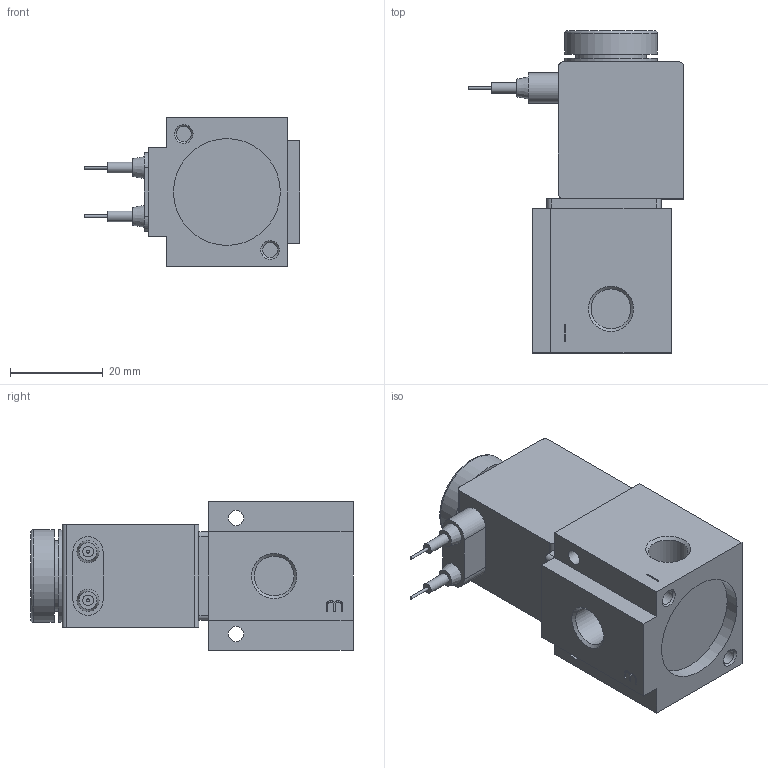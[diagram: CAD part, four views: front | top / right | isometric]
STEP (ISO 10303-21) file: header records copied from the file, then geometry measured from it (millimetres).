
FILE_DESCRIPTION( ( 'STEP AP214' ), '1' );
FILE_NAME( 'C:/Users/EMC02301/Desktop/ET307图纸/ET307-06E4F.stp', '2026-08-20T05:53:02', ( 'License CC BY-ND 4.0' ), ( 'CADENAS' ), ' ', 'PARTsolutions', ' ' );
FILE_SCHEMA( ( 'AUTOMOTIVE_DESIGN { 1 0 10303 214 1 1 1 1 }' ) );
Length unit declared in the file: millimetre
Products named in the file (1): _ET307-06E4F-_et307_body
Bounding box: 46.45 x 69.4 x 32 mm (x, y, z)
Volume: 46208.6 mm3; surface area: 11825.5 mm2
Topology: 1 solids, 1 shells, 109 faces, 248 edges, 161 vertices
Faces by surface type: plane 55, cylinder 41, cone 12, torus 1
Full cylindrical faces by diameter (mm): 0.6 x2, 2.3 x2, 3.242 x2, 3.3 x2, 8.566 x3, 15.2 x1, 20 x2, 23 x1
Entity records: 3831 total; most frequent: DIRECTION 537, CARTESIAN_POINT 491, ORIENTED_EDGE 440, EDGE_CURVE 220, AXIS2_PLACEMENT_3D 207, EDGE_LOOP 161, VERTEX_POINT 161, FACE_OUTER_BOUND 125
